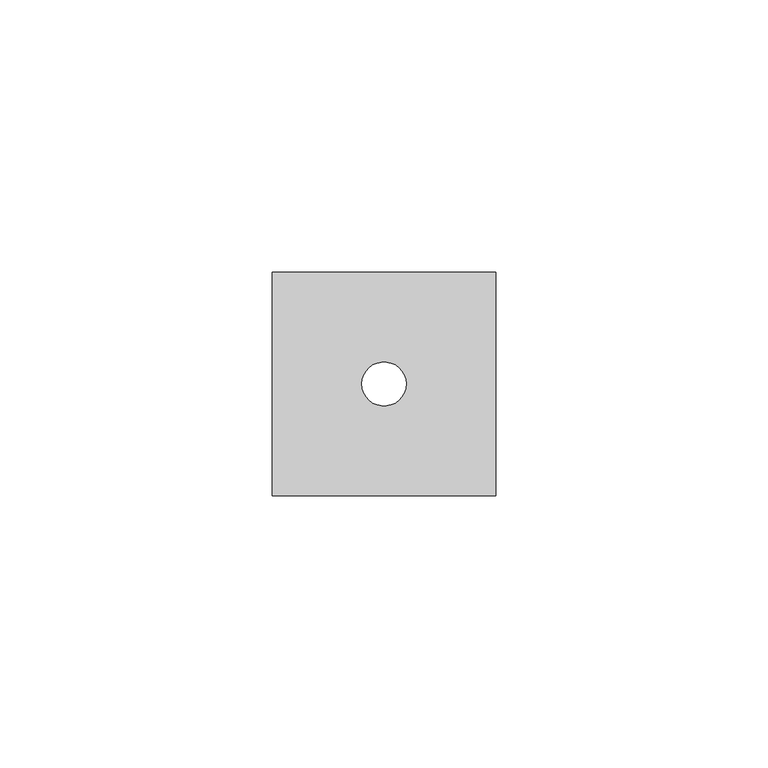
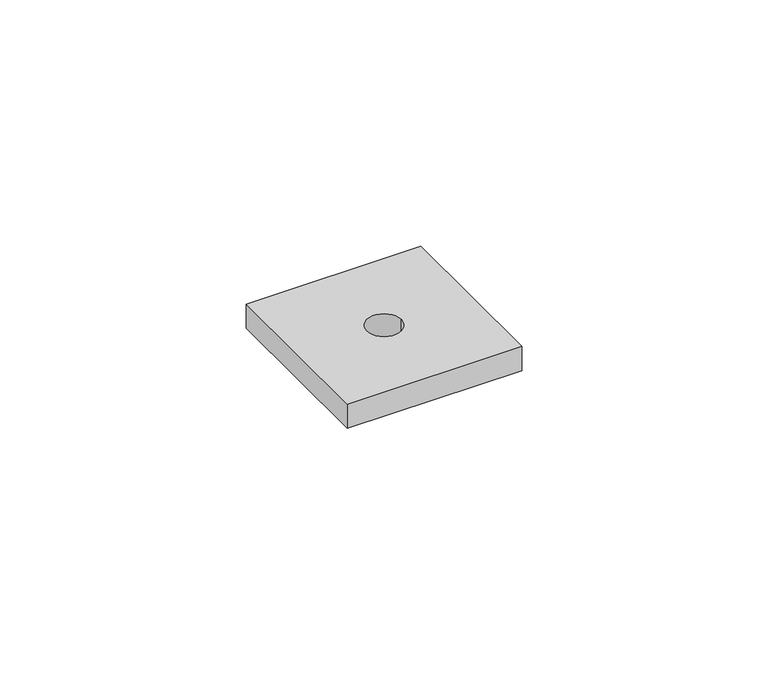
"""IFC4 building model written with IfcOpenShell, lengths in millimetres: unitary equipment geometry, 1_INS_MQA-R : MQA-R."""

from ifc_helpers import new_model, si_unit, point, origin, origin_with_axes, origin_2d, place, context, project, spatial, polyline, circle_curve, trimmed, segment, composite_curve, outline, extrude, source, transform, mapped, element, save


def unitary_equipment_e487e5fd(model_context):
    return source(origin(), model_context, "Body", "SweptSolid", [
        extrude(outline(polyline([(20.5, 20.5), (20.5, -20.5), (-20.5, -20.5), (-20.5, 20.5), (20.5, 20.5)]), holes=[composite_curve([segment(trimmed(circle_curve(origin_2d(), 4.05), [point((-4.05, 0.0))], [point((4.05, 0.0))], True, "CARTESIAN"), True, "CONTINUOUS"), segment(trimmed(circle_curve(origin_2d(), 4.05), [point((4.05, 0.0))], [point((-4.05, 0.0))], True, "CARTESIAN"), True, "CONTINUOUS")], self_intersect=False)]), origin_with_axes(), (0.0, 0.0, 1.0), 6.0),
    ])


if __name__ == "__main__":
    model = new_model("IFC4")
    model_context = context("Model", 3, world=origin())
    ifc_project = project(units=[si_unit("LENGTHUNIT", "METRE", prefix="MILLI")], contexts=[model_context])
    site = spatial("IfcSite", under=ifc_project)
    building = spatial("IfcBuilding", under=site)
    placement = place(None, origin())
    unitary_equipment_shape = unitary_equipment_e487e5fd(model_context)
    element("IfcUnitaryEquipment", 1, ObjectType="1_INS_MQA-R : MQA-R", at=placement, inside=building, context=model_context, shape_type="MappedRepresentation", body=[
        mapped(unitary_equipment_shape, transform((0.0, 0.0, 0.0), x_axis=(1.0, 0.0, 0.0), y_axis=(0.0, 1.0, 0.0), z_axis=(0.0, 0.0, 1.0))),
    ])
    save(model, "model.ifc")
